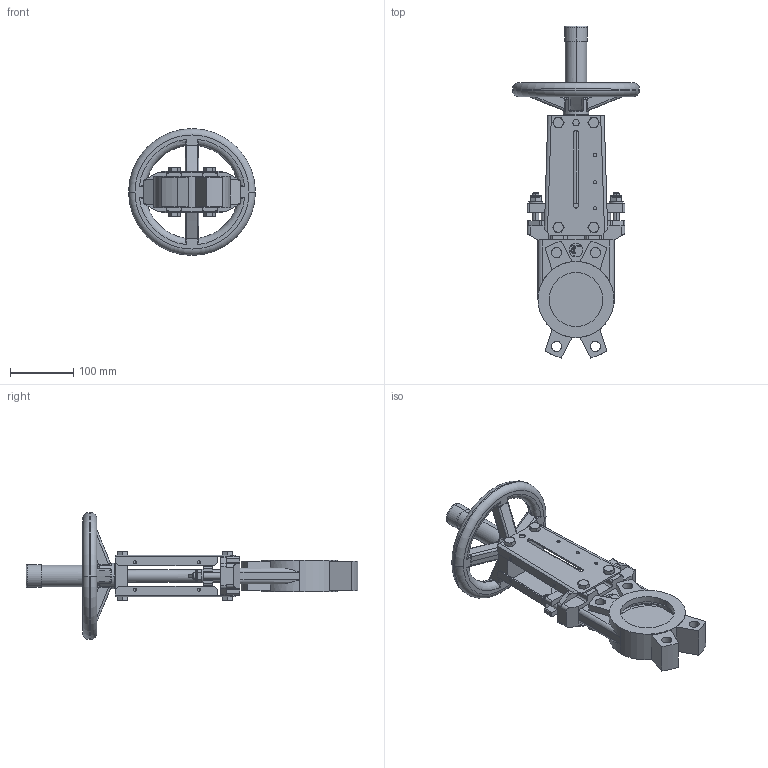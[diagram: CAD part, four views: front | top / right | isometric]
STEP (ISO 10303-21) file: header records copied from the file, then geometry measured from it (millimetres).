
FILE_DESCRIPTION (( 'STEP AP203' ), '1' );
FILE_NAME ('VG DN80.STEP', '2010-01-25T08:24:18', ( 'farex' ), ( '' ), 'SwSTEP 2.0', 'SolidWorks 2009', '' );
FILE_SCHEMA (( 'CONFIG_CONTROL_DESIGN' ));
Length unit declared in the file: millimetre
Products named in the file (1): VG DN80
Bounding box: 200 x 523.67 x 200 mm (x, y, z)
Volume: 1572249.2 mm3; surface area: 341750.4 mm2
Topology: 1 solids, 3 shells, 809 faces, 2154 edges, 1389 vertices
Faces by surface type: plane 334, cylinder 199, cone 137, bspline 90, torus 49
Entity records: 30535 total; most frequent: CARTESIAN_POINT 11016, ORIENTED_EDGE 4308, DIRECTION 3738, EDGE_CURVE 2154, VERTEX_POINT 1389, AXIS2_PLACEMENT_3D 1377, VECTOR 984, LINE 984
